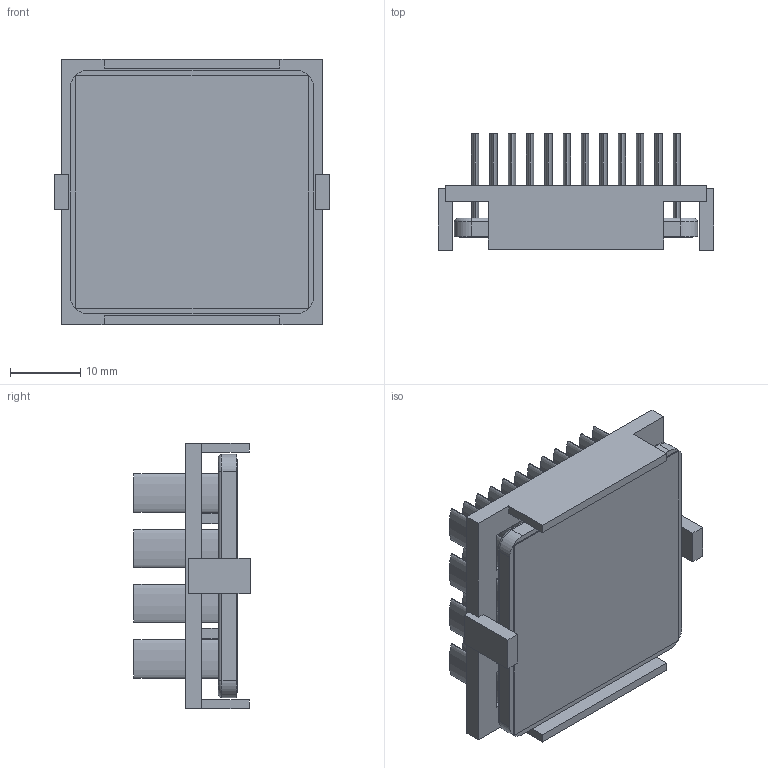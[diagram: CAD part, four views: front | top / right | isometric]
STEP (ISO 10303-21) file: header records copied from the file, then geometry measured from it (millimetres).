
FILE_DESCRIPTION (( 'STEP AP214' ), '1' );
FILE_NAME ('INM35001-15W-2.6BU.STEP', '2023-02-20T22:52:55', ( '' ), ( '' ), 'SwSTEP 2.0', 'SolidWorks 2020', '' );
FILE_SCHEMA (( 'AUTOMOTIVE_DESIGN' ));
Length unit declared in the file: inch
Products named in the file (1): INM35001-15W-2.6BU
Bounding box: 39.2 x 16.5 x 37.7 mm (x, y, z)
Volume: 7706.3 mm3; surface area: 14294.2 mm2
Topology: 3 solids, 3 shells, 222 faces, 496 edges, 328 vertices
Faces by surface type: plane 114, bspline 96, cylinder 8, torus 4
Entity records: 9276 total; most frequent: CARTESIAN_POINT 2295, ORIENTED_EDGE 992, DIRECTION 578, EDGE_CURVE 496, VERTEX_POINT 328, VECTOR 284, LINE 284, EDGE_LOOP 272
